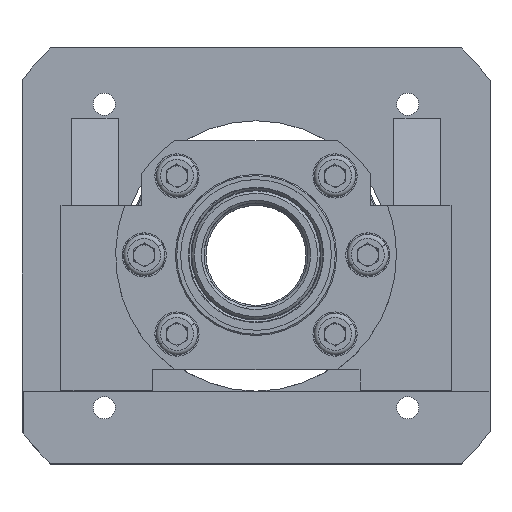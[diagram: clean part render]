
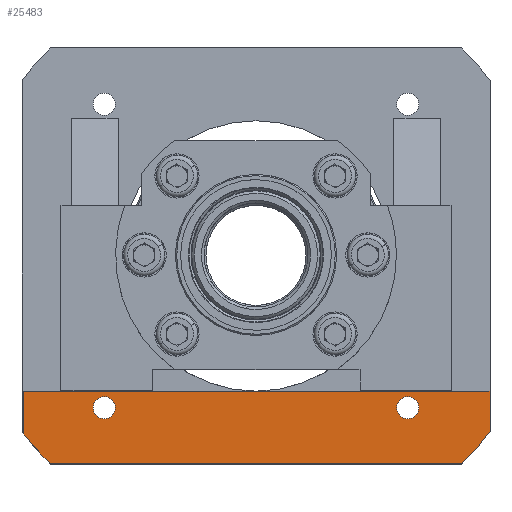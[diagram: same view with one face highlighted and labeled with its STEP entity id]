
A CAD part, top view. The second image highlights one B-rep face of the part: STEP entity #25483.
In plain terms, the highlighted planar face has unit normal (0, 0, 1).
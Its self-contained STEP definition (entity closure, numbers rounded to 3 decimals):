
#493 = EDGE_CURVE ( 'NONE', #8939, #1338, #19811, .T. ) ;
#1109 = DIRECTION ( 'NONE',  ( -1., 0., 0. ) ) ;
#1338 = VERTEX_POINT ( 'NONE', #24383 ) ;
#1506 = EDGE_CURVE ( 'NONE', #5792, #7158, #11820, .T. ) ;
#1542 = CARTESIAN_POINT ( 'NONE',  ( 58.336, -58.336, 21. ) ) ;
#1649 = CARTESIAN_POINT ( 'NONE',  ( -89.586, -51.999, 21. ) ) ;
#1717 = VECTOR ( 'NONE', #17435, 1000. ) ;
#1828 = ORIENTED_EDGE ( 'NONE', *, *, #20717, .T. ) ;
#2428 = VERTEX_POINT ( 'NONE', #3410 ) ;
#3253 = VERTEX_POINT ( 'NONE', #12932 ) ;
#3321 = EDGE_CURVE ( 'NONE', #16359, #13013, #25614, .T. ) ;
#3410 = CARTESIAN_POINT ( 'NONE',  ( 62.586, -58.336, 21. ) ) ;
#3437 = CARTESIAN_POINT ( 'NONE',  ( -58.336, -58.336, 21. ) ) ;
#3467 = CIRCLE ( 'NONE', #21830, 4.25 ) ;
#3560 = CARTESIAN_POINT ( 'NONE',  ( -89.586, -51.999, 21. ) ) ;
#3885 = DIRECTION ( 'NONE',  ( -1., 0., 0. ) ) ;
#3931 = DIRECTION ( 'NONE',  ( 0., 0., 1. ) ) ;
#4136 = CARTESIAN_POINT ( 'NONE',  ( 90., 80., 21. ) ) ;
#4208 = CARTESIAN_POINT ( 'NONE',  ( 58.336, -58.336, 21. ) ) ;
#4615 = VERTEX_POINT ( 'NONE', #12793 ) ;
#4827 = EDGE_CURVE ( 'NONE', #1338, #8939, #3467, .T. ) ;
#5614 = CARTESIAN_POINT ( 'NONE',  ( 90., -67.5, 21. ) ) ;
#5635 = ORIENTED_EDGE ( 'NONE', *, *, #28230, .T. ) ;
#5648 = VECTOR ( 'NONE', #10800, 1000. ) ;
#5792 = VERTEX_POINT ( 'NONE', #20384 ) ;
#5934 = VECTOR ( 'NONE', #20596, 1000. ) ;
#5947 = AXIS2_PLACEMENT_3D ( 'NONE', #4208, #20425, #6560 ) ;
#6024 = EDGE_LOOP ( 'NONE', ( #17858, #19541 ) ) ;
#6233 = DIRECTION ( 'NONE',  ( 0., 0., 1. ) ) ;
#6543 = CIRCLE ( 'NONE', #5947, 4.25 ) ;
#6560 = DIRECTION ( 'NONE',  ( -1., 0., 0. ) ) ;
#6990 = DIRECTION ( 'NONE',  ( 0., 0., -1. ) ) ;
#7121 = EDGE_CURVE ( 'NONE', #26834, #29854, #27130, .T. ) ;
#7158 = VERTEX_POINT ( 'NONE', #25161 ) ;
#8199 = AXIS2_PLACEMENT_3D ( 'NONE', #3437, #17315, #1109 ) ;
#8680 = FACE_BOUND ( 'NONE', #6024, .T. ) ;
#8749 = CARTESIAN_POINT ( 'NONE',  ( 0., 0., 21. ) ) ;
#8939 = VERTEX_POINT ( 'NONE', #23768 ) ;
#9492 = VERTEX_POINT ( 'NONE', #11485 ) ;
#9996 = EDGE_CURVE ( 'NONE', #29854, #9492, #10268, .T. ) ;
#10255 = CARTESIAN_POINT ( 'NONE',  ( 0.107, -52., 21. ) ) ;
#10268 = B_SPLINE_CURVE_WITH_KNOTS ( 'NONE', 3,
 ( #24140, #10255, #26451, #12572 ),
 .UNSPECIFIED., .F., .F.,
 ( 4, 4 ),
 ( 0., 1. ),
 .UNSPECIFIED. ) ;
#10274 = ORIENTED_EDGE ( 'NONE', *, *, #7121, .T. ) ;
#10800 = DIRECTION ( 'NONE',  ( 0., -1., 0. ) ) ;
#11062 = DIRECTION ( 'NONE',  ( -1., 0., 0. ) ) ;
#11282 = CARTESIAN_POINT ( 'NONE',  ( -90., -80., 21. ) ) ;
#11485 = CARTESIAN_POINT ( 'NONE',  ( -0.322, -51.999, 21. ) ) ;
#11820 = LINE ( 'NONE', #24688, #5648 ) ;
#11859 = LINE ( 'NONE', #4136, #28889 ) ;
#12086 = LINE ( 'NONE', #11282, #5934 ) ;
#12212 = ORIENTED_EDGE ( 'NONE', *, *, #20921, .F. ) ;
#12340 = CIRCLE ( 'NONE', #22856, 4.25 ) ;
#12362 = AXIS2_PLACEMENT_3D ( 'NONE', #20468, #6990, #23225 ) ;
#12572 = CARTESIAN_POINT ( 'NONE',  ( -0.322, -51.999, 21. ) ) ;
#12793 = CARTESIAN_POINT ( 'NONE',  ( 54.086, -58.336, 21. ) ) ;
#12932 = CARTESIAN_POINT ( 'NONE',  ( -79.096, -80., 21. ) ) ;
#13013 = VERTEX_POINT ( 'NONE', #5614 ) ;
#15245 = ORIENTED_EDGE ( 'NONE', *, *, #4827, .F. ) ;
#15537 = VECTOR ( 'NONE', #20206, 1000. ) ;
#15628 = AXIS2_PLACEMENT_3D ( 'NONE', #8749, #24947, #11062 ) ;
#15634 = EDGE_CURVE ( 'NONE', #26834, #13013, #11859, .T. ) ;
#16359 = VERTEX_POINT ( 'NONE', #25961 ) ;
#17315 = DIRECTION ( 'NONE',  ( 0., 0., 1. ) ) ;
#17353 = EDGE_LOOP ( 'NONE', ( #15245, #19828 ) ) ;
#17435 = DIRECTION ( 'NONE',  ( -1., 0., 0. ) ) ;
#17751 = DIRECTION ( 'NONE',  ( 0., 0., 1. ) ) ;
#17797 = CARTESIAN_POINT ( 'NONE',  ( 0., 0., 21. ) ) ;
#17858 = ORIENTED_EDGE ( 'NONE', *, *, #21482, .F. ) ;
#18182 = ORIENTED_EDGE ( 'NONE', *, *, #15634, .F. ) ;
#18392 = ORIENTED_EDGE ( 'NONE', *, *, #9996, .T. ) ;
#18533 = PLANE ( 'NONE',  #12362 ) ;
#19465 = LINE ( 'NONE', #3560, #1717 ) ;
#19541 = ORIENTED_EDGE ( 'NONE', *, *, #24495, .F. ) ;
#19707 = CIRCLE ( 'NONE', #15628, 112.5 ) ;
#19811 = CIRCLE ( 'NONE', #8199, 4.25 ) ;
#19828 = ORIENTED_EDGE ( 'NONE', *, *, #493, .F. ) ;
#19876 = AXIS2_PLACEMENT_3D ( 'NONE', #17797, #3931, #20130 ) ;
#20094 = CARTESIAN_POINT ( 'NONE',  ( -58.336, -58.336, 21. ) ) ;
#20130 = DIRECTION ( 'NONE',  ( -1., 0., 0. ) ) ;
#20206 = DIRECTION ( 'NONE',  ( -1., 0., 0. ) ) ;
#20355 = DIRECTION ( 'NONE',  ( 0., -1., 0. ) ) ;
#20384 = CARTESIAN_POINT ( 'NONE',  ( -89.586, -51.999, 21. ) ) ;
#20425 = DIRECTION ( 'NONE',  ( 0., 0., 1. ) ) ;
#20468 = CARTESIAN_POINT ( 'NONE',  ( 0., 0., 21. ) ) ;
#20596 = DIRECTION ( 'NONE',  ( -1., 0., 0. ) ) ;
#20717 = EDGE_CURVE ( 'NONE', #7158, #3253, #19707, .T. ) ;
#20921 = EDGE_CURVE ( 'NONE', #16359, #3253, #12086, .T. ) ;
#21482 = EDGE_CURVE ( 'NONE', #4615, #2428, #12340, .T. ) ;
#21721 = FACE_BOUND ( 'NONE', #17353, .T. ) ;
#21830 = AXIS2_PLACEMENT_3D ( 'NONE', #20094, #6233, #22437 ) ;
#22029 = ORIENTED_EDGE ( 'NONE', *, *, #3321, .T. ) ;
#22437 = DIRECTION ( 'NONE',  ( -1., 0., 0. ) ) ;
#22486 = CARTESIAN_POINT ( 'NONE',  ( 0.322, -51.999, 21. ) ) ;
#22856 = AXIS2_PLACEMENT_3D ( 'NONE', #1542, #17751, #3885 ) ;
#23225 = DIRECTION ( 'NONE',  ( -1., 0., 0. ) ) ;
#23768 = CARTESIAN_POINT ( 'NONE',  ( -54.086, -58.336, 21. ) ) ;
#24140 = CARTESIAN_POINT ( 'NONE',  ( 0.322, -51.999, 21. ) ) ;
#24383 = CARTESIAN_POINT ( 'NONE',  ( -62.586, -58.336, 21. ) ) ;
#24495 = EDGE_CURVE ( 'NONE', #2428, #4615, #6543, .T. ) ;
#24523 = EDGE_LOOP ( 'NONE', ( #5635, #26109, #1828, #12212, #22029, #18182, #10274, #18392 ) ) ;
#24688 = CARTESIAN_POINT ( 'NONE',  ( -89.586, -122.034, 21. ) ) ;
#24947 = DIRECTION ( 'NONE',  ( 0., 0., 1. ) ) ;
#25161 = CARTESIAN_POINT ( 'NONE',  ( -89.586, -68.048, 21. ) ) ;
#25483 = ADVANCED_FACE ( 'NONE', ( #8680, #21721, #27150 ), #18533, .F. ) ;
#25614 = CIRCLE ( 'NONE', #19876, 112.5 ) ;
#25961 = CARTESIAN_POINT ( 'NONE',  ( 79.096, -80., 21. ) ) ;
#26109 = ORIENTED_EDGE ( 'NONE', *, *, #1506, .T. ) ;
#26451 = CARTESIAN_POINT ( 'NONE',  ( -0.107, -52., 21. ) ) ;
#26834 = VERTEX_POINT ( 'NONE', #28800 ) ;
#27130 = LINE ( 'NONE', #1649, #15537 ) ;
#27150 = FACE_OUTER_BOUND ( 'NONE', #24523, .T. ) ;
#28230 = EDGE_CURVE ( 'NONE', #9492, #5792, #19465, .T. ) ;
#28800 = CARTESIAN_POINT ( 'NONE',  ( 90., -51.999, 21. ) ) ;
#28889 = VECTOR ( 'NONE', #20355, 1000. ) ;
#29854 = VERTEX_POINT ( 'NONE', #22486 ) ;
